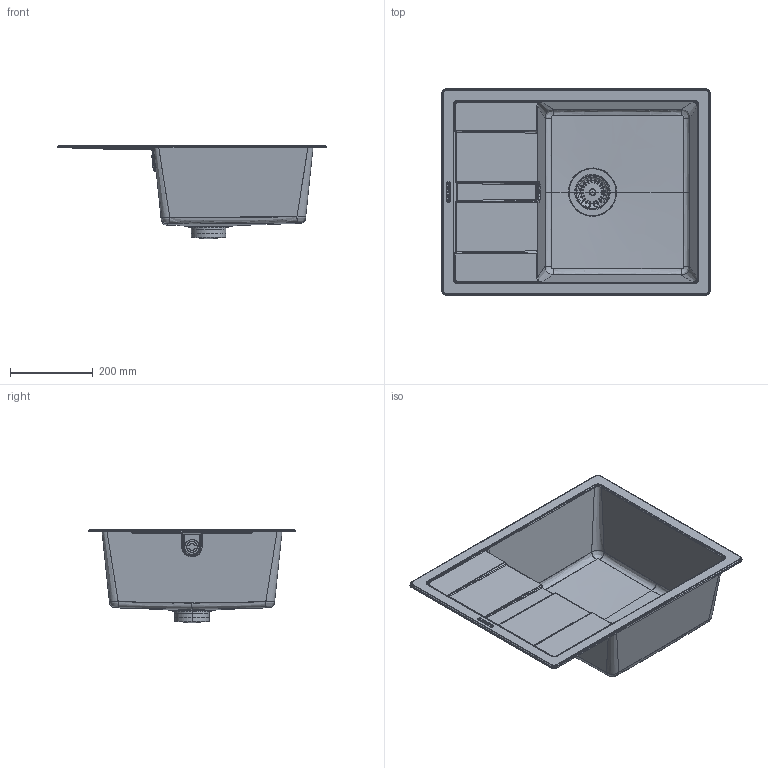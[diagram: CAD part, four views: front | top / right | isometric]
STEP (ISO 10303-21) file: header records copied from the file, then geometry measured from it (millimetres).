
FILE_DESCRIPTION(/* description */ (''),/* implementation_level */ '2;1');
FILE_NAME(/* name */ 'ROND100L',/* time_stamp */ '2014-11-04T10:42:04+01:00',/* author */ (''),/* organization */ (''),/* preprocessor_version */ 'ST-DEVELOPER v15',/* originating_system */ '',/* authorisation */ '');
FILE_SCHEMA (('AUTOMOTIVE_DESIGN'));
Length unit declared in the file: millimetre
Products named in the file (1): Document
Bounding box: 650 x 500 x 227.02 mm (x, y, z)
Volume: 31105.3 mm3; surface area: 691113.5 mm2
Topology: 3 solids, 230 shells, 408 faces, 1303 edges, 1080 vertices
Faces by surface type: bspline 359, plane 49
Entity records: 61963 total; most frequent: CARTESIAN_POINT 54360, ORIENTED_EDGE 1889, EDGE_CURVE 1293, VERTEX_POINT 1080, B_SPLINE_CURVE_WITH_KNOTS 1034, EDGE_LOOP 504, ADVANCED_FACE 408, FACE_OUTER_BOUND 408
